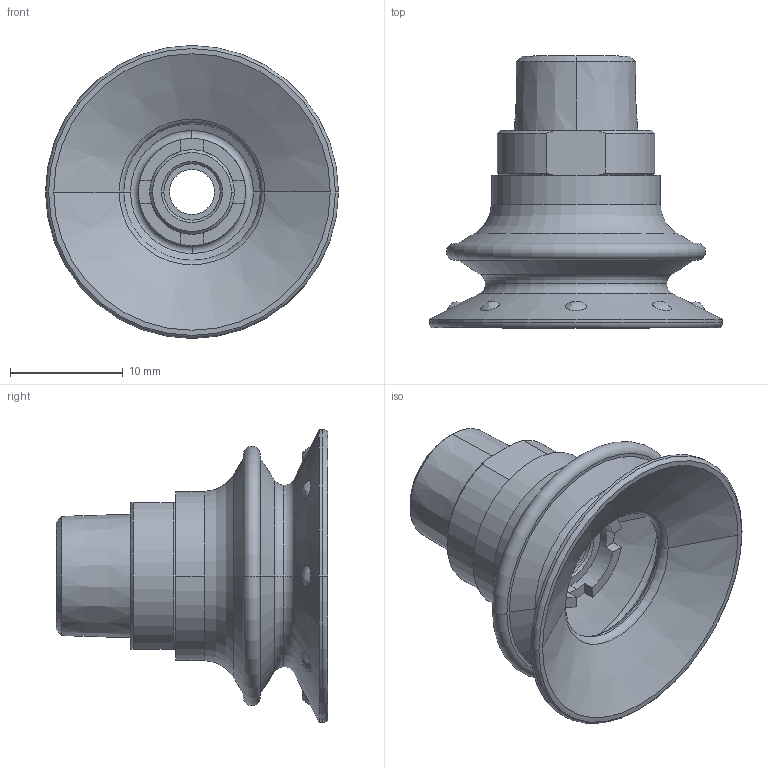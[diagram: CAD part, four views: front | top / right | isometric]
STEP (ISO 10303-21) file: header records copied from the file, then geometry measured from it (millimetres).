
FILE_DESCRIPTION (( 'STEP AP214' ), '1' );
FILE_NAME ('SB25P-60G-18M.STEP', '2026-03-17T14:18:01', ( '' ), ( '' ), 'SwSTEP 2.0', 'SolidWorks 2025', '' );
FILE_SCHEMA (( 'AUTOMOTIVE_DESIGN' ));
Length unit declared in the file: inch
Products named in the file (3): SB25P-60G; 401.037; SB25P-60G-18M
Assembly tree (2 placements, depth 2):
  SB25P-60G-18M
    SB25P-60G
    401.037
Bounding box: 26 x 24.12 x 26 mm (x, y, z)
Volume: 2816.5 mm3; surface area: 3620.3 mm2
Topology: 2 solids, 2 shells, 118 faces, 270 edges, 172 vertices
Faces by surface type: plane 32, cone 29, cylinder 26, torus 23, bspline 8
Entity records: 4162 total; most frequent: CARTESIAN_POINT 1339, DIRECTION 624, ORIENTED_EDGE 536, EDGE_CURVE 268, AXIS2_PLACEMENT_3D 267, VERTEX_POINT 172, CIRCLE 152, EDGE_LOOP 140
